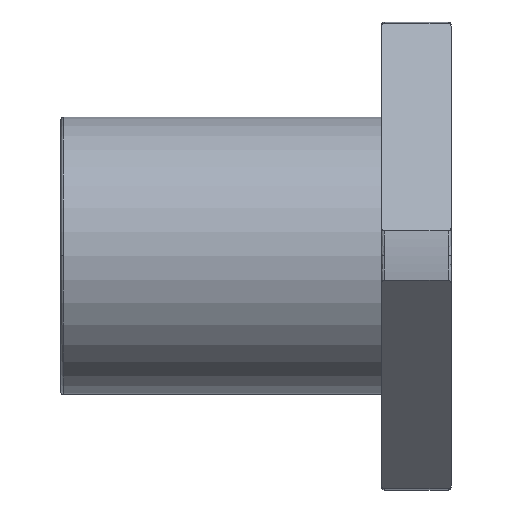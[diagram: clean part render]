
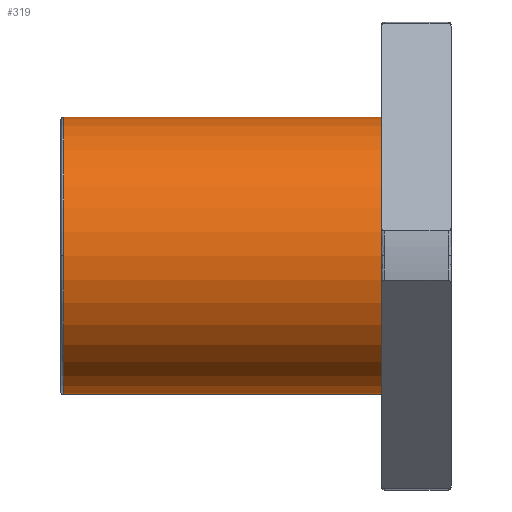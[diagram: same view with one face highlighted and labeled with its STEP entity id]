
A CAD part, top view. The second image highlights one B-rep face of the part: STEP entity #319.
In plain terms, the highlighted cylindrical face has radius 16 mm (diameter 32 mm), a partial arc.
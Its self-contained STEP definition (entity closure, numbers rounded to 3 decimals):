
#319 = ADVANCED_FACE('',(#320),#334,.T.);
#320 = FACE_BOUND('',#321,.T.);
#321 = EDGE_LOOP('',(#322,#357,#386,#415,#438));
#322 = ORIENTED_EDGE('',*,*,#323,.F.);
#323 = EDGE_CURVE('',#324,#326,#328,.T.);
#324 = VERTEX_POINT('',#325);
#325 = CARTESIAN_POINT('',(-44.7,16.,0.));
#326 = VERTEX_POINT('',#327);
#327 = CARTESIAN_POINT('',(-8.,16.,0.));
#328 = SURFACE_CURVE('',#329,(#333,#345),.PCURVE_S1.);
#329 = LINE('',#330,#331);
#330 = CARTESIAN_POINT('',(-26.35,16.,0.));
#331 = VECTOR('',#332,1.);
#332 = DIRECTION('',(1.,0.,0.));
#333 = PCURVE('',#334,#339);
#334 = CYLINDRICAL_SURFACE('',#335,16.);
#335 = AXIS2_PLACEMENT_3D('',#336,#337,#338);
#336 = CARTESIAN_POINT('',(-26.35,0.,0.));
#337 = DIRECTION('',(1.,0.,0.));
#338 = DIRECTION('',(-0.,1.,0.));
#339 = DEFINITIONAL_REPRESENTATION('',(#340),#344);
#340 = LINE('',#341,#342);
#341 = CARTESIAN_POINT('',(0.,0.));
#342 = VECTOR('',#343,1.);
#343 = DIRECTION('',(0.,1.));
#344 = ( GEOMETRIC_REPRESENTATION_CONTEXT(2) 
PARAMETRIC_REPRESENTATION_CONTEXT() REPRESENTATION_CONTEXT('2D SPACE',''
  ) );
#345 = PCURVE('',#346,#351);
#346 = CYLINDRICAL_SURFACE('',#347,16.);
#347 = AXIS2_PLACEMENT_3D('',#348,#349,#350);
#348 = CARTESIAN_POINT('',(-26.35,0.,0.));
#349 = DIRECTION('',(1.,0.,0.));
#350 = DIRECTION('',(-0.,1.,0.));
#351 = DEFINITIONAL_REPRESENTATION('',(#352),#356);
#352 = LINE('',#353,#354);
#353 = CARTESIAN_POINT('',(6.283,0.));
#354 = VECTOR('',#355,1.);
#355 = DIRECTION('',(0.,1.));
#356 = ( GEOMETRIC_REPRESENTATION_CONTEXT(2) 
PARAMETRIC_REPRESENTATION_CONTEXT() REPRESENTATION_CONTEXT('2D SPACE',''
  ) );
#357 = ORIENTED_EDGE('',*,*,#358,.T.);
#358 = EDGE_CURVE('',#324,#359,#361,.T.);
#359 = VERTEX_POINT('',#360);
#360 = CARTESIAN_POINT('',(-44.7,0.,16.));
#361 = SURFACE_CURVE('',#362,(#367,#374),.PCURVE_S1.);
#362 = CIRCLE('',#363,16.);
#363 = AXIS2_PLACEMENT_3D('',#364,#365,#366);
#364 = CARTESIAN_POINT('',(-44.7,0.,0.));
#365 = DIRECTION('',(1.,0.,0.));
#366 = DIRECTION('',(-0.,1.,0.));
#367 = PCURVE('',#334,#368);
#368 = DEFINITIONAL_REPRESENTATION('',(#369),#373);
#369 = LINE('',#370,#371);
#370 = CARTESIAN_POINT('',(0.,-18.35));
#371 = VECTOR('',#372,1.);
#372 = DIRECTION('',(1.,0.));
#373 = ( GEOMETRIC_REPRESENTATION_CONTEXT(2) 
PARAMETRIC_REPRESENTATION_CONTEXT() REPRESENTATION_CONTEXT('2D SPACE',''
  ) );
#374 = PCURVE('',#375,#380);
#375 = TOROIDAL_SURFACE('',#376,15.7,0.3);
#376 = AXIS2_PLACEMENT_3D('',#377,#378,#379);
#377 = CARTESIAN_POINT('',(-44.7,0.,0.));
#378 = DIRECTION('',(1.,0.,0.));
#379 = DIRECTION('',(0.,0.,-1.));
#380 = DEFINITIONAL_REPRESENTATION('',(#381),#385);
#381 = LINE('',#382,#383);
#382 = CARTESIAN_POINT('',(1.571,6.283));
#383 = VECTOR('',#384,1.);
#384 = DIRECTION('',(1.,0.));
#385 = ( GEOMETRIC_REPRESENTATION_CONTEXT(2) 
PARAMETRIC_REPRESENTATION_CONTEXT() REPRESENTATION_CONTEXT('2D SPACE',''
  ) );
#386 = ORIENTED_EDGE('',*,*,#387,.T.);
#387 = EDGE_CURVE('',#359,#388,#390,.T.);
#388 = VERTEX_POINT('',#389);
#389 = CARTESIAN_POINT('',(-44.7,-16.,0.));
#390 = SURFACE_CURVE('',#391,(#396,#403),.PCURVE_S1.);
#391 = CIRCLE('',#392,16.);
#392 = AXIS2_PLACEMENT_3D('',#393,#394,#395);
#393 = CARTESIAN_POINT('',(-44.7,0.,0.));
#394 = DIRECTION('',(1.,0.,0.));
#395 = DIRECTION('',(-0.,1.,0.));
#396 = PCURVE('',#334,#397);
#397 = DEFINITIONAL_REPRESENTATION('',(#398),#402);
#398 = LINE('',#399,#400);
#399 = CARTESIAN_POINT('',(0.,-18.35));
#400 = VECTOR('',#401,1.);
#401 = DIRECTION('',(1.,0.));
#402 = ( GEOMETRIC_REPRESENTATION_CONTEXT(2) 
PARAMETRIC_REPRESENTATION_CONTEXT() REPRESENTATION_CONTEXT('2D SPACE',''
  ) );
#403 = PCURVE('',#404,#409);
#404 = TOROIDAL_SURFACE('',#405,15.7,0.3);
#405 = AXIS2_PLACEMENT_3D('',#406,#407,#408);
#406 = CARTESIAN_POINT('',(-44.7,0.,0.));
#407 = DIRECTION('',(1.,0.,0.));
#408 = DIRECTION('',(0.,0.,-1.));
#409 = DEFINITIONAL_REPRESENTATION('',(#410),#414);
#410 = LINE('',#411,#412);
#411 = CARTESIAN_POINT('',(1.571,6.283));
#412 = VECTOR('',#413,1.);
#413 = DIRECTION('',(1.,0.));
#414 = ( GEOMETRIC_REPRESENTATION_CONTEXT(2) 
PARAMETRIC_REPRESENTATION_CONTEXT() REPRESENTATION_CONTEXT('2D SPACE',''
  ) );
#415 = ORIENTED_EDGE('',*,*,#416,.F.);
#416 = EDGE_CURVE('',#417,#388,#419,.T.);
#417 = VERTEX_POINT('',#418);
#418 = CARTESIAN_POINT('',(-8.,-16.,0.));
#419 = SURFACE_CURVE('',#420,(#424,#431),.PCURVE_S1.);
#420 = LINE('',#421,#422);
#421 = CARTESIAN_POINT('',(-26.35,-16.,0.));
#422 = VECTOR('',#423,1.);
#423 = DIRECTION('',(-1.,-0.,-0.));
#424 = PCURVE('',#334,#425);
#425 = DEFINITIONAL_REPRESENTATION('',(#426),#430);
#426 = LINE('',#427,#428);
#427 = CARTESIAN_POINT('',(3.142,0.));
#428 = VECTOR('',#429,1.);
#429 = DIRECTION('',(0.,-1.));
#430 = ( GEOMETRIC_REPRESENTATION_CONTEXT(2) 
PARAMETRIC_REPRESENTATION_CONTEXT() REPRESENTATION_CONTEXT('2D SPACE',''
  ) );
#431 = PCURVE('',#346,#432);
#432 = DEFINITIONAL_REPRESENTATION('',(#433),#437);
#433 = LINE('',#434,#435);
#434 = CARTESIAN_POINT('',(3.142,0.));
#435 = VECTOR('',#436,1.);
#436 = DIRECTION('',(0.,-1.));
#437 = ( GEOMETRIC_REPRESENTATION_CONTEXT(2) 
PARAMETRIC_REPRESENTATION_CONTEXT() REPRESENTATION_CONTEXT('2D SPACE',''
  ) );
#438 = ORIENTED_EDGE('',*,*,#439,.F.);
#439 = EDGE_CURVE('',#326,#417,#440,.T.);
#440 = SURFACE_CURVE('',#441,(#446,#453),.PCURVE_S1.);
#441 = CIRCLE('',#442,16.);
#442 = AXIS2_PLACEMENT_3D('',#443,#444,#445);
#443 = CARTESIAN_POINT('',(-8.,0.,0.));
#444 = DIRECTION('',(1.,0.,0.));
#445 = DIRECTION('',(-0.,1.,0.));
#446 = PCURVE('',#334,#447);
#447 = DEFINITIONAL_REPRESENTATION('',(#448),#452);
#448 = LINE('',#449,#450);
#449 = CARTESIAN_POINT('',(0.,18.35));
#450 = VECTOR('',#451,1.);
#451 = DIRECTION('',(1.,0.));
#452 = ( GEOMETRIC_REPRESENTATION_CONTEXT(2) 
PARAMETRIC_REPRESENTATION_CONTEXT() REPRESENTATION_CONTEXT('2D SPACE',''
  ) );
#453 = PCURVE('',#454,#459);
#454 = PLANE('',#455);
#455 = AXIS2_PLACEMENT_3D('',#456,#457,#458);
#456 = CARTESIAN_POINT('',(-8.,21.34,0.));
#457 = DIRECTION('',(-1.,0.,0.));
#458 = DIRECTION('',(0.,-1.,0.));
#459 = DEFINITIONAL_REPRESENTATION('',(#460),#468);
#460 = ( BOUNDED_CURVE() B_SPLINE_CURVE(2,(#461,#462,#463,#464,#465,#466
,#467),.UNSPECIFIED.,.T.,.F.) B_SPLINE_CURVE_WITH_KNOTS((1,2,2,2,2,1),(
    -2.094,0.,2.094,4.189,6.283,
8.378),.UNSPECIFIED.) CURVE() GEOMETRIC_REPRESENTATION_ITEM() 
RATIONAL_B_SPLINE_CURVE((1.,0.5,1.,0.5,1.,0.5,1.)) REPRESENTATION_ITEM(
  '') );
#461 = CARTESIAN_POINT('',(5.34,0.));
#462 = CARTESIAN_POINT('',(5.34,27.713));
#463 = CARTESIAN_POINT('',(29.34,13.856));
#464 = CARTESIAN_POINT('',(53.34,0.));
#465 = CARTESIAN_POINT('',(29.34,-13.856));
#466 = CARTESIAN_POINT('',(5.34,-27.713));
#467 = CARTESIAN_POINT('',(5.34,0.));
#468 = ( GEOMETRIC_REPRESENTATION_CONTEXT(2) 
PARAMETRIC_REPRESENTATION_CONTEXT() REPRESENTATION_CONTEXT('2D SPACE',''
  ) );
